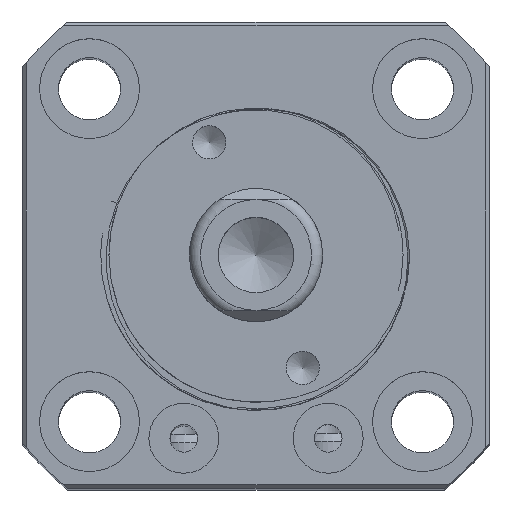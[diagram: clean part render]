
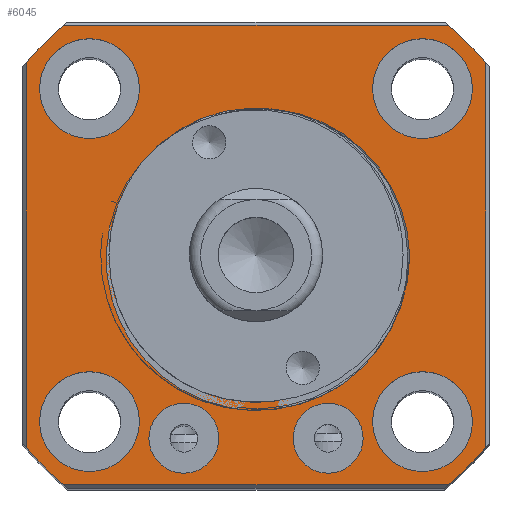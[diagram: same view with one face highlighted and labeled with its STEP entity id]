
A CAD part, top view. The second image highlights one B-rep face of the part: STEP entity #6045.
In plain terms, the highlighted planar face has unit normal (0, 0, 1).
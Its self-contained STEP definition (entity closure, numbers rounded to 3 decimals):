
#2885=PLANE('',#12532);
#3283=LINE('',#18447,#4167);
#3284=LINE('',#18452,#4168);
#3285=LINE('',#18456,#4169);
#3286=LINE('',#18460,#4170);
#4167=VECTOR('',#13261,1.);
#4168=VECTOR('',#13264,1.);
#4169=VECTOR('',#13267,1.);
#4170=VECTOR('',#13270,1.);
#5585=B_SPLINE_CURVE_WITH_KNOTS('',3,(#18434,#18435,#18436,#18437,#18438,
#18439),.UNSPECIFIED.,.F.,.F.,(4,2,4),(0.,0.5,1.),.UNSPECIFIED.);
#5586=B_SPLINE_CURVE_WITH_KNOTS('',3,(#18441,#18442,#18443,#18444,#18445,
#18446),.UNSPECIFIED.,.F.,.F.,(4,2,4),(0.,0.5,1.),.UNSPECIFIED.);
#6045=ADVANCED_FACE('',(#6649,#6650,#6651,#6652,#6653,#6654,#6655,#6656),
#2885,.T.);
#6649=FACE_BOUND('',#6904,.T.);
#6650=FACE_BOUND('',#6905,.T.);
#6651=FACE_BOUND('',#6906,.T.);
#6652=FACE_BOUND('',#6907,.T.);
#6653=FACE_BOUND('',#6908,.T.);
#6654=FACE_BOUND('',#6909,.T.);
#6655=FACE_BOUND('',#6910,.T.);
#6656=FACE_BOUND('',#6911,.T.);
#6904=EDGE_LOOP('',(#7720));
#6905=EDGE_LOOP('',(#7721));
#6906=EDGE_LOOP('',(#7722));
#6907=EDGE_LOOP('',(#7723));
#6908=EDGE_LOOP('',(#7724));
#6909=EDGE_LOOP('',(#7725));
#6910=EDGE_LOOP('',(#7726,#7727,#7728));
#6911=EDGE_LOOP('',(#7729,#7730,#7731,#7732,#7733,#7734,#7735,#7736));
#7720=ORIENTED_EDGE('',*,*,#11063,.F.);
#7721=ORIENTED_EDGE('',*,*,#11065,.F.);
#7722=ORIENTED_EDGE('',*,*,#11083,.F.);
#7723=ORIENTED_EDGE('',*,*,#11085,.F.);
#7724=ORIENTED_EDGE('',*,*,#11087,.F.);
#7725=ORIENTED_EDGE('',*,*,#11089,.F.);
#7726=ORIENTED_EDGE('',*,*,#11119,.F.);
#7727=ORIENTED_EDGE('',*,*,#11141,.T.);
#7728=ORIENTED_EDGE('',*,*,#11142,.T.);
#7729=ORIENTED_EDGE('',*,*,#11143,.T.);
#7730=ORIENTED_EDGE('',*,*,#11144,.T.);
#7731=ORIENTED_EDGE('',*,*,#11145,.T.);
#7732=ORIENTED_EDGE('',*,*,#11146,.T.);
#7733=ORIENTED_EDGE('',*,*,#11147,.T.);
#7734=ORIENTED_EDGE('',*,*,#11148,.T.);
#7735=ORIENTED_EDGE('',*,*,#11149,.T.);
#7736=ORIENTED_EDGE('',*,*,#11150,.T.);
#10119=VERTEX_POINT('',#17833);
#10121=VERTEX_POINT('',#17838);
#10138=VERTEX_POINT('',#18008);
#10140=VERTEX_POINT('',#18013);
#10142=VERTEX_POINT('',#18018);
#10144=VERTEX_POINT('',#18023);
#10174=VERTEX_POINT('',#18241);
#10175=VERTEX_POINT('',#18243);
#10196=VERTEX_POINT('',#18440);
#10197=VERTEX_POINT('',#18448);
#10198=VERTEX_POINT('',#18449);
#10199=VERTEX_POINT('',#18451);
#10200=VERTEX_POINT('',#18453);
#10201=VERTEX_POINT('',#18455);
#10202=VERTEX_POINT('',#18457);
#10203=VERTEX_POINT('',#18459);
#10204=VERTEX_POINT('',#18461);
#11063=EDGE_CURVE('',#10119,#10119,#12294,.T.);
#11065=EDGE_CURVE('',#10121,#10121,#12296,.T.);
#11083=EDGE_CURVE('',#10138,#10138,#12311,.T.);
#11085=EDGE_CURVE('',#10140,#10140,#12313,.T.);
#11087=EDGE_CURVE('',#10142,#10142,#12315,.T.);
#11089=EDGE_CURVE('',#10144,#10144,#12317,.T.);
#11119=EDGE_CURVE('',#10174,#10175,#12327,.T.);
#11141=EDGE_CURVE('',#10174,#10196,#5585,.T.);
#11142=EDGE_CURVE('',#10196,#10175,#5586,.T.);
#11143=EDGE_CURVE('',#10197,#10198,#3283,.T.);
#11144=EDGE_CURVE('',#10198,#10199,#12329,.T.);
#11145=EDGE_CURVE('',#10199,#10200,#3284,.T.);
#11146=EDGE_CURVE('',#10200,#10201,#12330,.T.);
#11147=EDGE_CURVE('',#10201,#10202,#3285,.T.);
#11148=EDGE_CURVE('',#10202,#10203,#12331,.T.);
#11149=EDGE_CURVE('',#10203,#10204,#3286,.T.);
#11150=EDGE_CURVE('',#10204,#10197,#12332,.T.);
#12294=CIRCLE('',#12474,3.15);
#12296=CIRCLE('',#12477,3.15);
#12311=CIRCLE('',#12501,4.5);
#12313=CIRCLE('',#12504,4.5);
#12315=CIRCLE('',#12507,4.5);
#12317=CIRCLE('',#12510,4.5);
#12327=CIRCLE('',#12525,13.25);
#12329=CIRCLE('',#12528,27.);
#12330=CIRCLE('',#12529,27.);
#12331=CIRCLE('',#12530,27.);
#12332=CIRCLE('',#12531,27.);
#12474=AXIS2_PLACEMENT_3D('',#17832,#13152,#13153);
#12477=AXIS2_PLACEMENT_3D('',#17837,#13158,#13159);
#12501=AXIS2_PLACEMENT_3D('',#18007,#13206,#13207);
#12504=AXIS2_PLACEMENT_3D('',#18012,#13212,#13213);
#12507=AXIS2_PLACEMENT_3D('',#18017,#13218,#13219);
#12510=AXIS2_PLACEMENT_3D('',#18022,#13224,#13225);
#12525=AXIS2_PLACEMENT_3D('',#18242,#13254,#13255);
#12528=AXIS2_PLACEMENT_3D('',#18450,#13262,#13263);
#12529=AXIS2_PLACEMENT_3D('',#18454,#13265,#13266);
#12530=AXIS2_PLACEMENT_3D('',#18458,#13268,#13269);
#12531=AXIS2_PLACEMENT_3D('',#18462,#13271,#13272);
#12532=AXIS2_PLACEMENT_3D('',#18463,#13273,#13274);
#13152=DIRECTION('',(0.,0.,1.));
#13153=DIRECTION('',(1.,0.,0.));
#13158=DIRECTION('',(0.,0.,1.));
#13159=DIRECTION('',(1.,0.,0.));
#13206=DIRECTION('',(0.,0.,1.));
#13207=DIRECTION('',(1.,0.,0.));
#13212=DIRECTION('',(0.,0.,1.));
#13213=DIRECTION('',(1.,0.,0.));
#13218=DIRECTION('',(0.,0.,1.));
#13219=DIRECTION('',(1.,0.,0.));
#13224=DIRECTION('',(0.,0.,1.));
#13225=DIRECTION('',(1.,0.,0.));
#13254=DIRECTION('',(0.,0.,1.));
#13255=DIRECTION('',(1.,0.,0.));
#13261=DIRECTION('',(0.,1.,0.));
#13262=DIRECTION('',(0.,0.,1.));
#13263=DIRECTION('',(1.,0.,0.));
#13264=DIRECTION('',(-1.,0.,0.));
#13265=DIRECTION('',(0.,0.,1.));
#13266=DIRECTION('',(1.,0.,0.));
#13267=DIRECTION('',(0.,-1.,0.));
#13268=DIRECTION('',(0.,0.,1.));
#13269=DIRECTION('',(1.,0.,0.));
#13270=DIRECTION('',(1.,0.,0.));
#13271=DIRECTION('',(0.,0.,1.));
#13272=DIRECTION('',(1.,0.,0.));
#13273=DIRECTION('',(0.,0.,1.));
#13274=DIRECTION('',(-1.,0.,0.));
#17832=CARTESIAN_POINT('',(-98.957,8.258,78.254));
#17833=CARTESIAN_POINT('',(-95.807,8.258,78.254));
#17837=CARTESIAN_POINT('',(-85.957,8.258,78.254));
#17838=CARTESIAN_POINT('',(-82.807,8.258,78.254));
#18007=CARTESIAN_POINT('',(-107.457,9.758,78.254));
#18008=CARTESIAN_POINT('',(-102.957,9.758,78.254));
#18012=CARTESIAN_POINT('',(-77.457,9.758,78.254));
#18013=CARTESIAN_POINT('',(-72.957,9.758,78.254));
#18017=CARTESIAN_POINT('',(-77.457,39.758,78.254));
#18018=CARTESIAN_POINT('',(-72.957,39.758,78.254));
#18022=CARTESIAN_POINT('',(-107.457,39.758,78.254));
#18023=CARTESIAN_POINT('',(-102.957,39.758,78.254));
#18241=CARTESIAN_POINT('',(-90.729,37.895,78.254));
#18242=CARTESIAN_POINT('',(-92.457,24.758,78.254));
#18243=CARTESIAN_POINT('',(-90.729,11.621,78.254));
#18434=CARTESIAN_POINT('',(-90.729,37.895,78.254));
#18435=CARTESIAN_POINT('',(-87.466,37.568,78.254));
#18436=CARTESIAN_POINT('',(-84.383,35.997,78.254));
#18437=CARTESIAN_POINT('',(-80.014,31.228,78.254));
#18438=CARTESIAN_POINT('',(-78.703,28.035,78.254));
#18439=CARTESIAN_POINT('',(-78.61,24.758,78.254));
#18440=CARTESIAN_POINT('',(-78.61,24.758,78.254));
#18441=CARTESIAN_POINT('',(-78.61,24.758,78.254));
#18442=CARTESIAN_POINT('',(-78.703,21.48,78.254));
#18443=CARTESIAN_POINT('',(-80.015,18.286,78.254));
#18444=CARTESIAN_POINT('',(-84.384,13.52,78.254));
#18445=CARTESIAN_POINT('',(-87.465,11.948,78.254));
#18446=CARTESIAN_POINT('',(-90.729,11.621,78.254));
#18447=CARTESIAN_POINT('',(-71.757,45.758,78.254));
#18448=CARTESIAN_POINT('',(-71.757,7.423,78.254));
#18449=CARTESIAN_POINT('',(-71.757,42.093,78.254));
#18450=CARTESIAN_POINT('',(-92.457,24.758,78.254));
#18451=CARTESIAN_POINT('',(-75.122,45.458,78.254));
#18452=CARTESIAN_POINT('',(-113.457,45.458,78.254));
#18453=CARTESIAN_POINT('',(-109.793,45.458,78.254));
#18454=CARTESIAN_POINT('',(-92.457,24.758,78.254));
#18455=CARTESIAN_POINT('',(-113.157,42.093,78.254));
#18456=CARTESIAN_POINT('',(-113.157,3.758,78.254));
#18457=CARTESIAN_POINT('',(-113.157,7.423,78.254));
#18458=CARTESIAN_POINT('',(-92.457,24.758,78.254));
#18459=CARTESIAN_POINT('',(-109.793,4.058,78.254));
#18460=CARTESIAN_POINT('',(-71.457,4.058,78.254));
#18461=CARTESIAN_POINT('',(-75.122,4.058,78.254));
#18462=CARTESIAN_POINT('',(-92.457,24.758,78.254));
#18463=CARTESIAN_POINT('',(-92.457,24.758,78.254));
